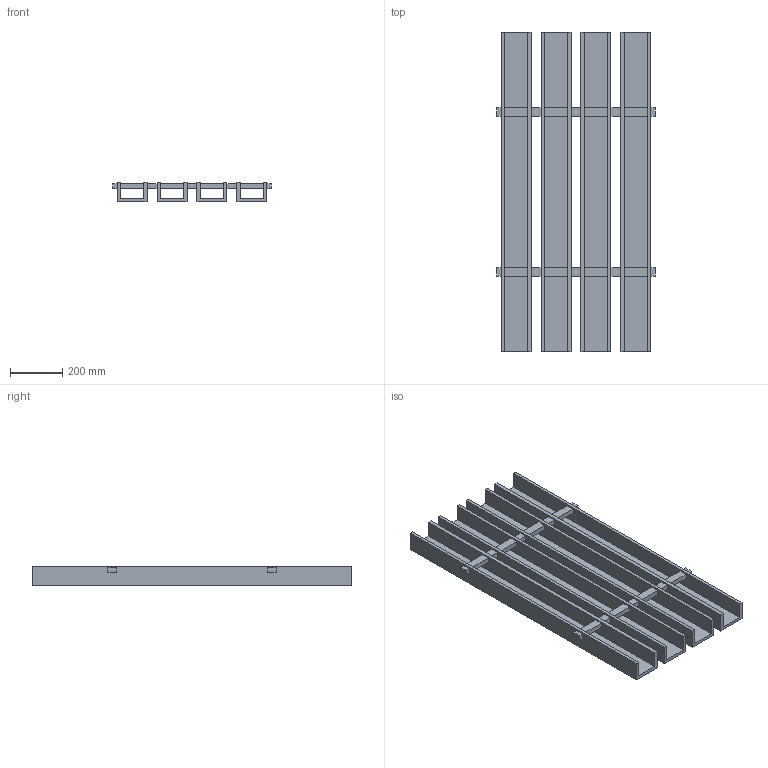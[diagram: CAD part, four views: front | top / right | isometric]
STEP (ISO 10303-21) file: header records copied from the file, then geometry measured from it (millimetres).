
FILE_DESCRIPTION(/* description */ (''),/* implementation_level */ '2;1');
FILE_NAME(/* name */ 'PET GRILLA_4.5x3_4ft',/* time_stamp */ '2024-10-15T14:22:09-05:00',/* author */ (''),/* organization */ (''),/* preprocessor_version */ 'ST-DEVELOPER v19.2',/* originating_system */ 'Rhino 8.4',/* authorisation */ '');
FILE_SCHEMA (('CONFIG_CONTROL_DESIGN'));
Length unit declared in the file: inch
Products named in the file (1): Document
Bounding box: 603.25 x 1219.2 x 76.2 mm (x, y, z)
Volume: 15551835.8 mm3; surface area: 2586930.3 mm2
Topology: 1 solids, 1 shells, 116 faces, 312 edges, 208 vertices
Faces by surface type: plane 116
Entity records: 3260 total; most frequent: CARTESIAN_POINT 950, ORIENTED_EDGE 624, EDGE_CURVE 312, B_SPLINE_CURVE_WITH_KNOTS 312, VERTEX_POINT 208, EDGE_LOOP 148, DIRECTION 120, AXIS2_PLACEMENT_3D 118
